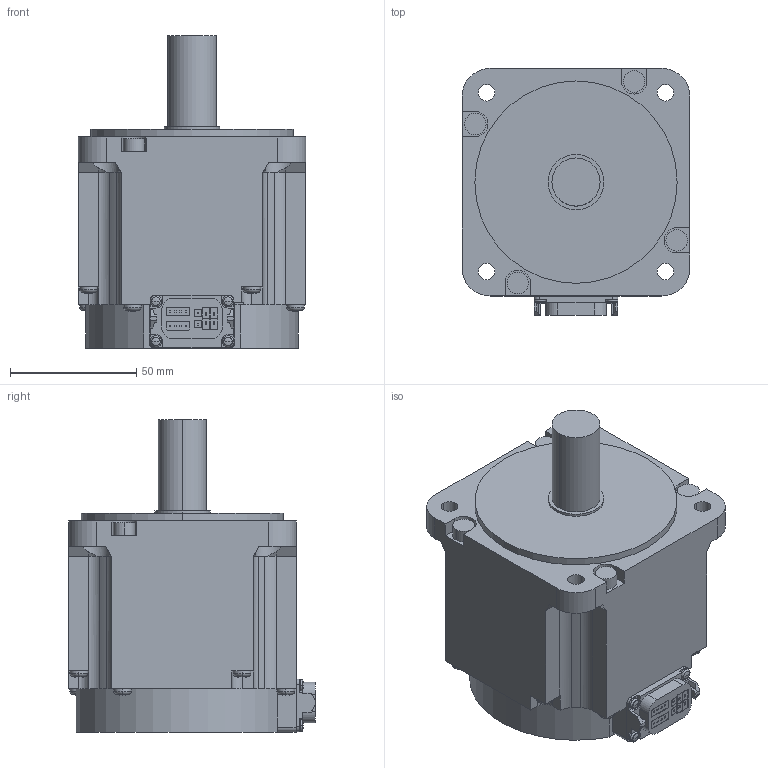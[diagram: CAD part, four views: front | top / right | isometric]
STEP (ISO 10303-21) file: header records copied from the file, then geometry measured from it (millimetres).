
FILE_DESCRIPTION((''),'2;1');
FILE_NAME('BC63815_-_HK-KT7M3UW_-_ASM','2019-01-18T',('XE90682'),(''),'CREO PARAMETRIC BY PTC INC, 2016380','CREO PARAMETRIC BY PTC INC, 2016380','');
FILE_SCHEMA(('CONFIG_CONTROL_DESIGN'));
Length unit declared in the file: millimetre
Products named in the file (1): BC63815_-_HK-KT7M3UW_-_ASM
Bounding box: 90 x 97.65 x 123.5 mm (x, y, z)
Volume: 600185.5 mm3; surface area: 48982.5 mm2
Topology: 1 solids, 1 shells, 397 faces, 1028 edges, 652 vertices
Faces by surface type: plane 224, cylinder 117, torus 24, sphere 24, cone 8
Entity records: 12071 total; most frequent: CARTESIAN_POINT 2181, DIRECTION 2101, ORIENTED_EDGE 2008, EDGE_CURVE 1004, AXIS2_PLACEMENT_3D 716, VECTOR 669, LINE 669, VERTEX_POINT 652
